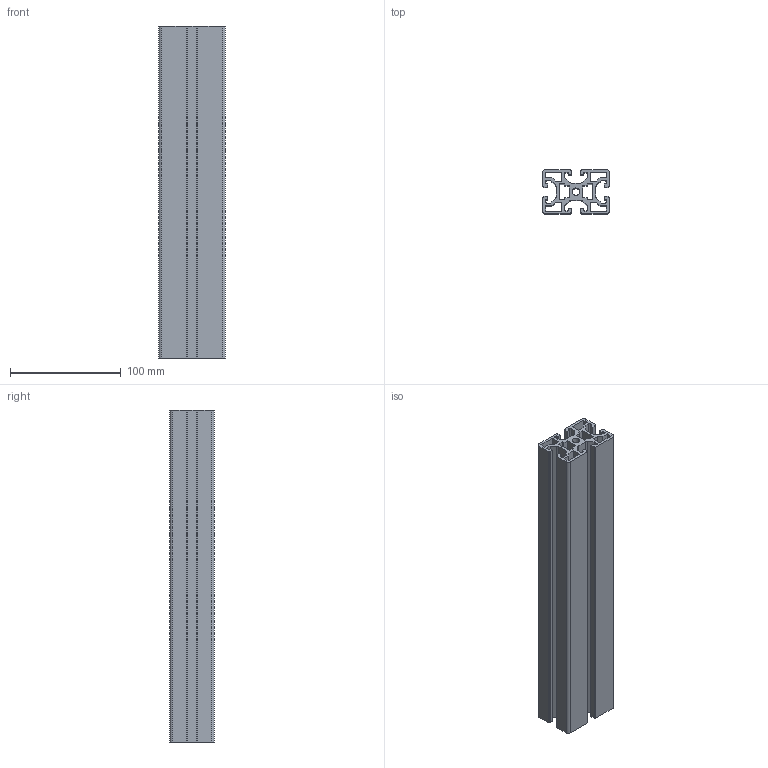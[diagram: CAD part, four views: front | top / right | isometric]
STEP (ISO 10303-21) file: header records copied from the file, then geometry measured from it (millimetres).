
FILE_DESCRIPTION (( 'STEP AP203' ), '1' );
FILE_NAME ('24-CE-4060-8.STEP', '2015-07-07T03:17:07', ( '' ), ( '' ), 'SwSTEP 2.0', 'SolidWorks 2013', '' );
FILE_SCHEMA (( 'CONFIG_CONTROL_DESIGN' ));
Length unit declared in the file: millimetre
Products named in the file (1): 24-CE-4060-8
Bounding box: 60 x 40 x 300 mm (x, y, z)
Volume: 304771 mm3; surface area: 207200 mm2
Topology: 1 solids, 1 shells, 148 faces, 438 edges, 292 vertices
Faces by surface type: plane 118, cylinder 30
Entity records: 5007 total; most frequent: CARTESIAN_POINT 879, ORIENTED_EDGE 876, DIRECTION 796, EDGE_CURVE 438, LINE 378, VECTOR 378, VERTEX_POINT 292, AXIS2_PLACEMENT_3D 209
